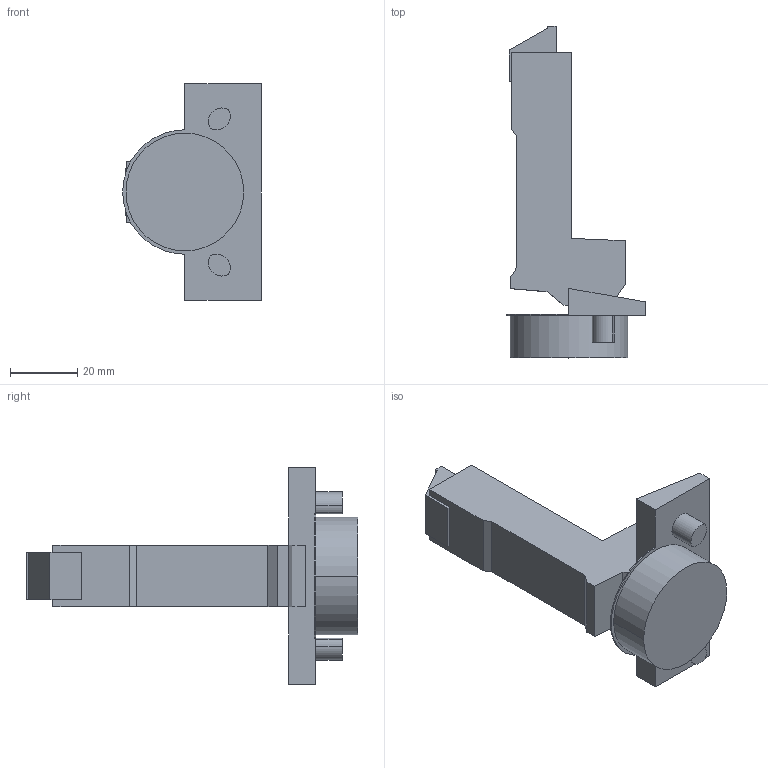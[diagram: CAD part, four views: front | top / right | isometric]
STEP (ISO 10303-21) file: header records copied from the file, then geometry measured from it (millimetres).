
FILE_DESCRIPTION (( 'STEP AP214' ), '1' );
FILE_NAME ('Scharnier T Impresso 110° GB_BB, K19.step', '2018-09-12T09:11:20', ( '' ), ( '' ), 'SwSTEP 2.0', 'SolidWorks 2017', '' );
FILE_SCHEMA (( 'AUTOMOTIVE_DESIGN' ));
Length unit declared in the file: millimetre
Products named in the file (1): Scharnier T Impresso 110° GB_BB, K19
Bounding box: 41.25 x 98.7 x 64.5 mm (x, y, z)
Volume: 49364.8 mm3; surface area: 13378.5 mm2
Topology: 1 solids, 1 shells, 55 faces, 141 edges, 94 vertices
Faces by surface type: plane 39, cylinder 16
Entity records: 1701 total; most frequent: CARTESIAN_POINT 291, DIRECTION 285, ORIENTED_EDGE 282, EDGE_CURVE 141, VECTOR 109, LINE 109, VERTEX_POINT 94, AXIS2_PLACEMENT_3D 88
